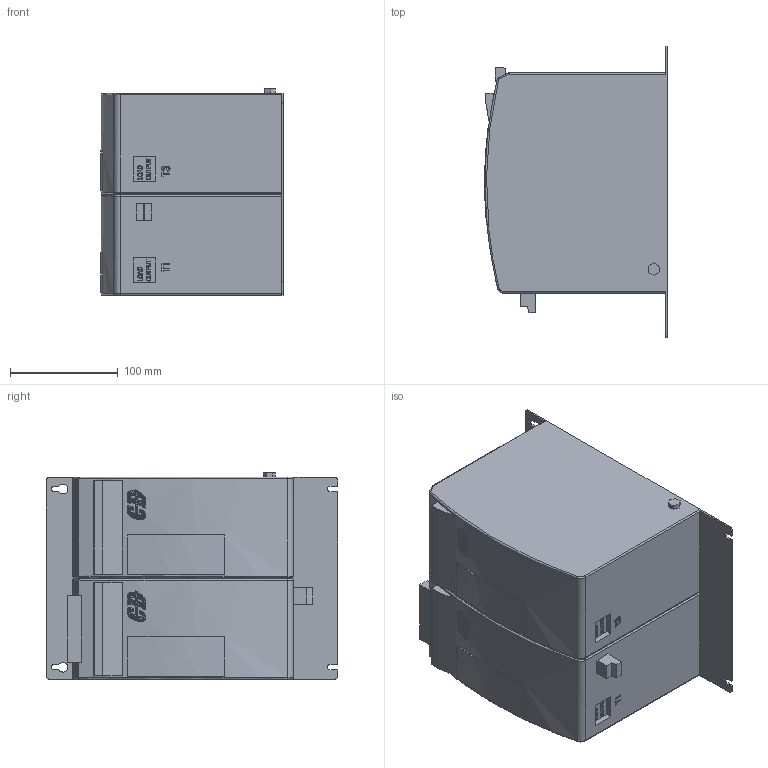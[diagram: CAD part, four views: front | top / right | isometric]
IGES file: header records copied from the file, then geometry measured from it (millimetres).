
Global section: file name: SR13 60A 2PH; native system: AutoCAD 2015 - Italiano (Italian); preprocessor: Autodesk Translation Framework DWG producer (atf_dwg_producer); organization: unknown; date: 20180117.121808; units: millimetre
Bounding box: 169.37 x 269.5 x 191 mm (x, y, z)
Volume: 6282708.8 mm3; surface area: 297503.8 mm2
Topology: 1 solids, 1 shells, 2218 faces, 6134 edges, 4076 vertices
Faces by surface type: bspline 2218
